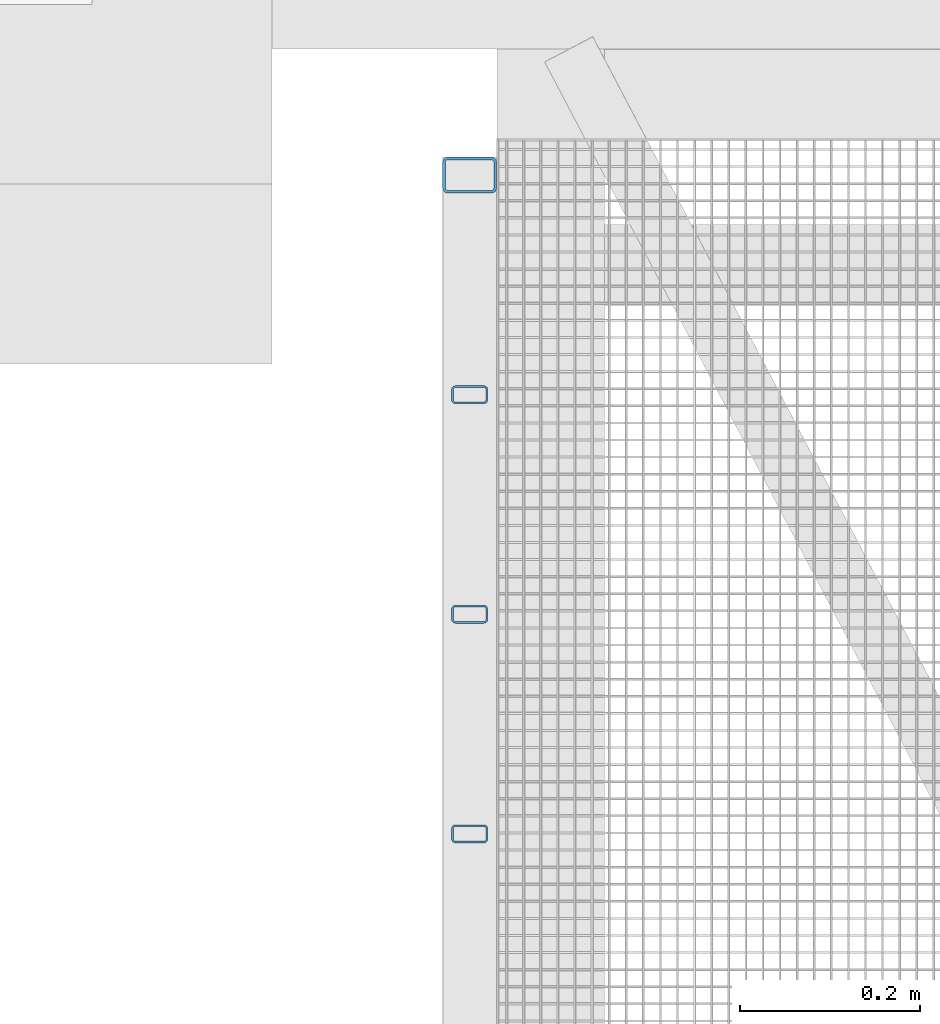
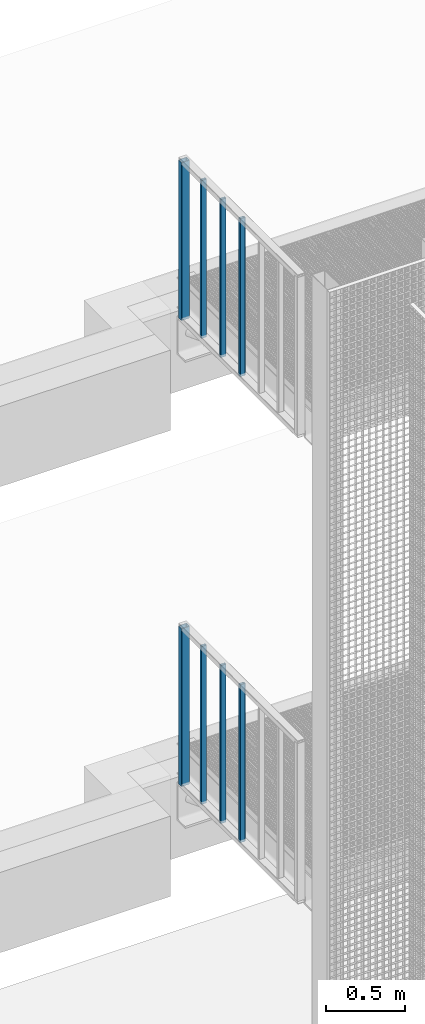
# One storey, part 56 of 1148: 8 columns, 8 elements without a shape of their own.
"""IFC2X3 building model written with IfcOpenShell, lengths in millimetres."""

from ifc_helpers import new_model, si_unit, frame, origin_with_axes, origin_2d_with_axis, place, context, subcontext, project, spatial, hollow_rectangle, extrude, material, type_object, element, aggregate, save


model = new_model("IFC2X3")

# Units and contexts
model_context = context("Model", 3, precision=1e-05, world=origin_with_axes())
body_context = subcontext(model_context, "Body", "Model", "MODEL_VIEW")
ifc_project = project(units=[si_unit("LENGTHUNIT", "METRE", prefix="MILLI"), si_unit("AREAUNIT", "SQUARE_METRE"), si_unit("VOLUMEUNIT", "CUBIC_METRE"), si_unit("MASSUNIT", "GRAM", prefix="KILO"), si_unit("TIMEUNIT", "SECOND"), si_unit("PLANEANGLEUNIT", "RADIAN"), si_unit("SOLIDANGLEUNIT", "STERADIAN"), si_unit("THERMODYNAMICTEMPERATUREUNIT", "DEGREE_CELSIUS"), si_unit("LUMINOUSINTENSITYUNIT", "LUMEN")], contexts=[model_context])

# Site, building, storey
site_placement = place(None, origin_with_axes())
site = spatial("IfcSite", under=ifc_project, at=site_placement, Name="Undefined", CompositionType="ELEMENT")
building_placement = place(site_placement, origin_with_axes())
building = spatial("IfcBuilding", under=site, at=building_placement, Name="Undefined", CompositionType="ELEMENT")
storey_placement = place(building_placement, origin_with_axes())
storey = spatial("IfcBuildingStorey", under=building, at=storey_placement, Name="Undefined", CompositionType="ELEMENT", Elevation=0.0)

# Assembly, column
assembly_1_placement = place(storey_placement, origin_with_axes())
assembly_1 = element("IfcElementAssembly", 1, at=assembly_1_placement, inside=storey, Name="STANCHION", AssemblyPlace="NOTDEFINED", PredefinedType="NOTDEFINED")
ifc_material = material(Name="Undefined/FE510D")
column_type_1 = type_object("IfcColumnType", Name="TUBE-R-40*20*2", PredefinedType="NOTDEFINED")
column_1_placement = place(assembly_1_placement, frame((20019.9350965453, 2415.85979616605, 17020.0), z_axis=(0.0, 0.0, 1.0), x_axis=(-0.999999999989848, 4.50600000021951e-06, 0.0)))
column_1 = element("IfcColumn", 2, at=column_1_placement, type_object=column_type_1, material=ifc_material, Name="STANCHION", context=body_context, shape_type="SweptSolid", body=[
    extrude(hollow_rectangle(XDim=20.0, YDim=40.0, WallThickness=2.0, InnerFilletRadius=2.0, OuterFilletRadius=4.0, at=origin_2d_with_axis()), frame((0.0, 0.0, 1219.99999999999), z_axis=(0.0, 0.0, -1.0), x_axis=(0.0, 1.0, 0.0)), (0.0, 0.0, 1.0), 1220.0),
])
aggregate(assembly_1, [column_1])

assembly_2_placement = place(storey_placement, origin_with_axes())
assembly_2 = element("IfcElementAssembly", 3, at=assembly_2_placement, inside=storey, Name="STANCHION", AssemblyPlace="NOTDEFINED", PredefinedType="NOTDEFINED")
column_2_placement = place(assembly_2_placement, frame((20019.9339963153, 2171.68979616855, 17020.0), z_axis=(0.0, 0.0, 1.0), x_axis=(-0.999999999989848, 4.50600000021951e-06, 0.0)))
column_2 = element("IfcColumn", 4, at=column_2_placement, type_object=column_type_1, material=ifc_material, Name="STANCHION", context=body_context, shape_type="SweptSolid", body=[
    extrude(hollow_rectangle(XDim=20.0, YDim=40.0, WallThickness=2.0, InnerFilletRadius=2.0, OuterFilletRadius=4.0, at=origin_2d_with_axis()), frame((0.0, 0.0, 1219.99999999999), z_axis=(0.0, 0.0, -1.0), x_axis=(0.0, 1.0, 0.0)), (0.0, 0.0, 1.0), 1220.0),
])
aggregate(assembly_2, [column_2])

assembly_3_placement = place(storey_placement, origin_with_axes())
assembly_3 = element("IfcElementAssembly", 5, at=assembly_3_placement, inside=storey, Name="STANCHION", AssemblyPlace="NOTDEFINED", PredefinedType="NOTDEFINED")
column_3_placement = place(assembly_3_placement, frame((20019.9328960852, 1927.51979617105, 17020.0), z_axis=(0.0, 0.0, 1.0), x_axis=(-0.999999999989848, 4.50600000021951e-06, 0.0)))
column_3 = element("IfcColumn", 6, at=column_3_placement, type_object=column_type_1, material=ifc_material, Name="STANCHION", context=body_context, shape_type="SweptSolid", body=[
    extrude(hollow_rectangle(XDim=20.0, YDim=40.0, WallThickness=2.0, InnerFilletRadius=2.0, OuterFilletRadius=4.0, at=origin_2d_with_axis()), frame((0.0, 0.0, 1219.99999999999), z_axis=(0.0, 0.0, -1.0), x_axis=(0.0, 1.0, 0.0)), (0.0, 0.0, 1.0), 1220.0),
])
aggregate(assembly_3, [column_3])

assembly_4_placement = place(storey_placement, origin_with_axes())
assembly_4 = element("IfcElementAssembly", 7, at=assembly_4_placement, inside=storey, Name="STANCHION", AssemblyPlace="NOTDEFINED", PredefinedType="NOTDEFINED")
column_4_placement = place(assembly_4_placement, frame((20019.9350965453, 2415.85979616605, 13420.0), z_axis=(0.0, 0.0, 1.0), x_axis=(-0.999999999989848, 4.50600000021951e-06, 0.0)))
column_4 = element("IfcColumn", 8, at=column_4_placement, type_object=column_type_1, material=ifc_material, Name="STANCHION", context=body_context, shape_type="SweptSolid", body=[
    extrude(hollow_rectangle(XDim=20.0, YDim=40.0, WallThickness=2.0, InnerFilletRadius=2.0, OuterFilletRadius=4.0, at=origin_2d_with_axis()), frame((0.0, 0.0, 1219.99999999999), z_axis=(0.0, 0.0, -1.0), x_axis=(0.0, 1.0, 0.0)), (0.0, 0.0, 1.0), 1220.0),
])
aggregate(assembly_4, [column_4])

assembly_5_placement = place(storey_placement, origin_with_axes())
assembly_5 = element("IfcElementAssembly", 9, at=assembly_5_placement, inside=storey, Name="STANCHION", AssemblyPlace="NOTDEFINED", PredefinedType="NOTDEFINED")
column_5_placement = place(assembly_5_placement, frame((20019.9339963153, 2171.68979616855, 13420.0), z_axis=(0.0, 0.0, 1.0), x_axis=(-0.999999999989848, 4.50600000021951e-06, 0.0)))
column_5 = element("IfcColumn", 10, at=column_5_placement, type_object=column_type_1, material=ifc_material, Name="STANCHION", context=body_context, shape_type="SweptSolid", body=[
    extrude(hollow_rectangle(XDim=20.0, YDim=40.0, WallThickness=2.0, InnerFilletRadius=2.0, OuterFilletRadius=4.0, at=origin_2d_with_axis()), frame((0.0, 0.0, 1219.99999999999), z_axis=(0.0, 0.0, -1.0), x_axis=(0.0, 1.0, 0.0)), (0.0, 0.0, 1.0), 1220.0),
])
aggregate(assembly_5, [column_5])

assembly_6_placement = place(storey_placement, origin_with_axes())
assembly_6 = element("IfcElementAssembly", 11, at=assembly_6_placement, inside=storey, Name="STANCHION", AssemblyPlace="NOTDEFINED", PredefinedType="NOTDEFINED")
column_6_placement = place(assembly_6_placement, frame((20019.9328960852, 1927.51979617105, 13420.0), z_axis=(0.0, 0.0, 1.0), x_axis=(-0.999999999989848, 4.50600000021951e-06, 0.0)))
column_6 = element("IfcColumn", 12, at=column_6_placement, type_object=column_type_1, material=ifc_material, Name="STANCHION", context=body_context, shape_type="SweptSolid", body=[
    extrude(hollow_rectangle(XDim=20.0, YDim=40.0, WallThickness=2.0, InnerFilletRadius=2.0, OuterFilletRadius=4.0, at=origin_2d_with_axis()), frame((0.0, 0.0, 1219.99999999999), z_axis=(0.0, 0.0, -1.0), x_axis=(0.0, 1.0, 0.0)), (0.0, 0.0, 1.0), 1220.0),
])
aggregate(assembly_6, [column_6])

assembly_7_placement = place(storey_placement, origin_with_axes())
assembly_7 = element("IfcElementAssembly", 13, at=assembly_7_placement, inside=storey, Name="STANCHION", AssemblyPlace="NOTDEFINED", PredefinedType="NOTDEFINED")
column_type_2 = type_object("IfcColumnType", Name="TUBE-R-60*40*3", PredefinedType="NOTDEFINED")
column_7_placement = place(assembly_7_placement, frame((20019.9363465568, 2660.00840282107, 17020.0), z_axis=(0.0, 0.0, 1.0), x_axis=(-0.999999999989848, 4.50600000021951e-06, 0.0)))
column_7 = element("IfcColumn", 14, at=column_7_placement, type_object=column_type_2, material=ifc_material, Name="STANCHION", context=body_context, shape_type="SweptSolid", body=[
    extrude(hollow_rectangle(XDim=40.0, YDim=60.0, WallThickness=3.0, InnerFilletRadius=3.0, OuterFilletRadius=6.0, at=origin_2d_with_axis()), frame((0.0, 0.0, 1219.99999999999), z_axis=(0.0, 0.0, -1.0), x_axis=(0.0, 1.0, 0.0)), (0.0, 0.0, 1.0), 1220.0),
])
aggregate(assembly_7, [column_7])

assembly_8_placement = place(storey_placement, origin_with_axes())
assembly_8 = element("IfcElementAssembly", 15, at=assembly_8_placement, inside=storey, Name="STANCHION", AssemblyPlace="NOTDEFINED", PredefinedType="NOTDEFINED")
column_8_placement = place(assembly_8_placement, frame((20019.9363465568, 2660.00840282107, 13420.0), z_axis=(0.0, 0.0, 1.0), x_axis=(-0.999999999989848, 4.50600000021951e-06, 0.0)))
column_8 = element("IfcColumn", 16, at=column_8_placement, type_object=column_type_2, material=ifc_material, Name="STANCHION", context=body_context, shape_type="SweptSolid", body=[
    extrude(hollow_rectangle(XDim=40.0, YDim=60.0, WallThickness=3.0, InnerFilletRadius=3.0, OuterFilletRadius=6.0, at=origin_2d_with_axis()), frame((0.0, 0.0, 1219.99999999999), z_axis=(0.0, 0.0, -1.0), x_axis=(0.0, 1.0, 0.0)), (0.0, 0.0, 1.0), 1220.0),
])
aggregate(assembly_8, [column_8])

save(model, "model.ifc")
